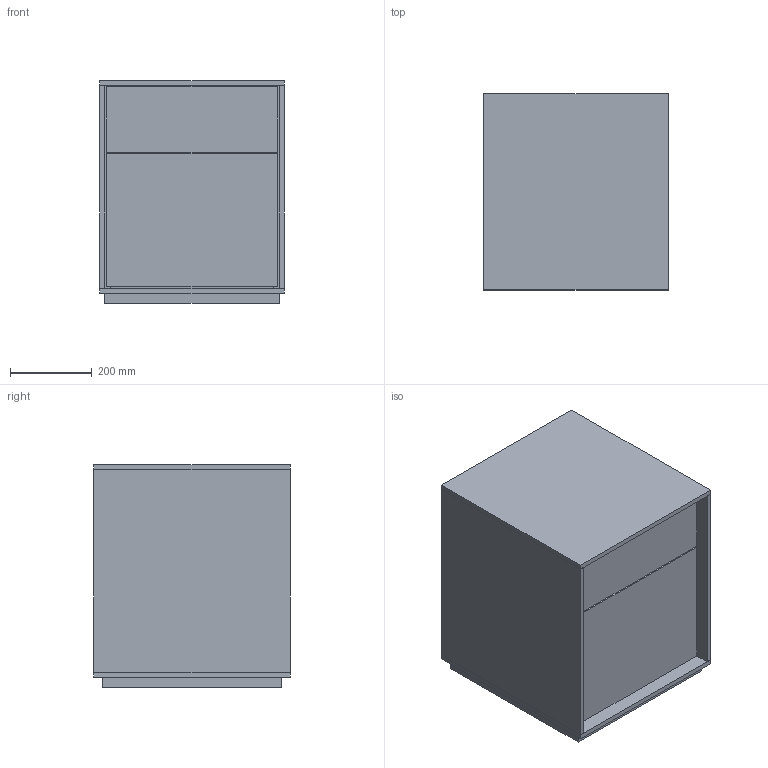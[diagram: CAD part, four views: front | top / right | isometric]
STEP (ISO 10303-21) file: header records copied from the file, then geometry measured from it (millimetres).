
FILE_DESCRIPTION(/* description */ (''),/* implementation_level */ '2;1');
FILE_NAME(/* name */ 'CF01 - Luminare Cassettiera H57 folder',/* time_stamp */ '2012-06-20T17:21:28+02:00',/* author */ (''),/* organization */ (''),/* preprocessor_version */ 'ST-DEVELOPER v10',/* originating_system */ '',/* authorisation */ '');
FILE_SCHEMA (('CONFIG_CONTROL_DESIGN'));
Length unit declared in the file: centimetre
Products named in the file (1): 1
Bounding box: 450 x 480 x 545 mm (x, y, z)
Volume: 30108643.2 mm3; surface area: 4818263.2 mm2
Topology: 12 solids, 12 shells, 72 faces, 144 edges, 96 vertices
Faces by surface type: plane 72
Entity records: 1716 total; most frequent: CARTESIAN_POINT 498, ORIENTED_EDGE 288, EDGE_CURVE 144, B_SPLINE_CURVE_WITH_KNOTS 144, VERTEX_POINT 96, DIRECTION 76, AXIS2_PLACEMENT_3D 74, ADVANCED_FACE 72
